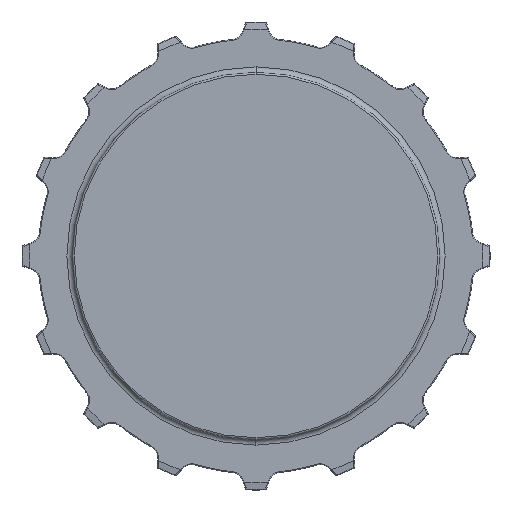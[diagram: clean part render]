
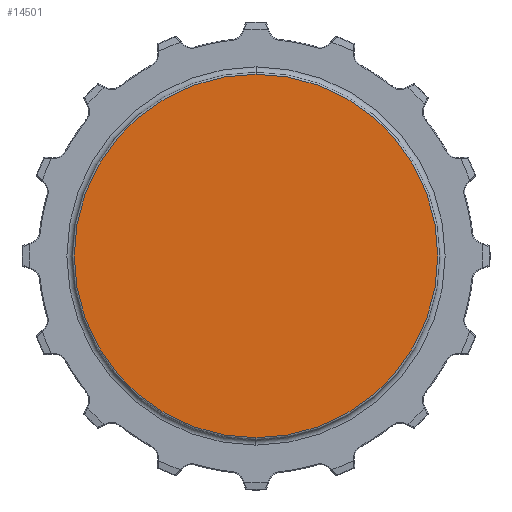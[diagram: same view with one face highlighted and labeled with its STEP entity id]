
A CAD part, left-side view. The second image highlights one B-rep face of the part: STEP entity #14501.
In plain terms, the highlighted planar face has unit normal (-1, 0, 0).
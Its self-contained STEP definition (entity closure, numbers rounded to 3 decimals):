
#457=CARTESIAN_POINT('',(-21.15,0.,0.));
#458=DIRECTION('',(-1.,0.,0.));
#459=DIRECTION('',(0.,0.,1.));
#460=AXIS2_PLACEMENT_3D('',#457,#458,#459);
#462=CARTESIAN_POINT('',(-21.15,0.,0.));
#463=DIRECTION('',(1.,0.,0.));
#464=DIRECTION('',(0.,0.,1.));
#465=AXIS2_PLACEMENT_3D('',#462,#463,#464);
#11155=CARTESIAN_POINT('',(-21.15,0.,99.));
#11156=VERTEX_POINT('',#11155);
#11161=CARTESIAN_POINT('',(-21.15,0.,-99.));
#11162=VERTEX_POINT('',#11161);
#14492=CARTESIAN_POINT('',(-21.15,0.,0.));
#14493=DIRECTION('',(1.,0.,0.));
#14494=DIRECTION('',(0.,0.,-1.));
#14495=AXIS2_PLACEMENT_3D('',#14492,#14493,#14494);
#14496=PLANE('',#14495);
#14497=ORIENTED_EDGE('',*,*,#14485,.F.);
#14498=ORIENTED_EDGE('',*,*,#14474,.T.);
#14499=EDGE_LOOP('',(#14497,#14498));
#14500=FACE_OUTER_BOUND('',#14499,.F.);
#14501=ADVANCED_FACE('',(#14500),#14496,.F.);
#461=CIRCLE('',#460,99.);
#466=CIRCLE('',#465,99.);
#14474=EDGE_CURVE('',#11156,#11162,#466,.T.);
#14485=EDGE_CURVE('',#11156,#11162,#461,.T.);
